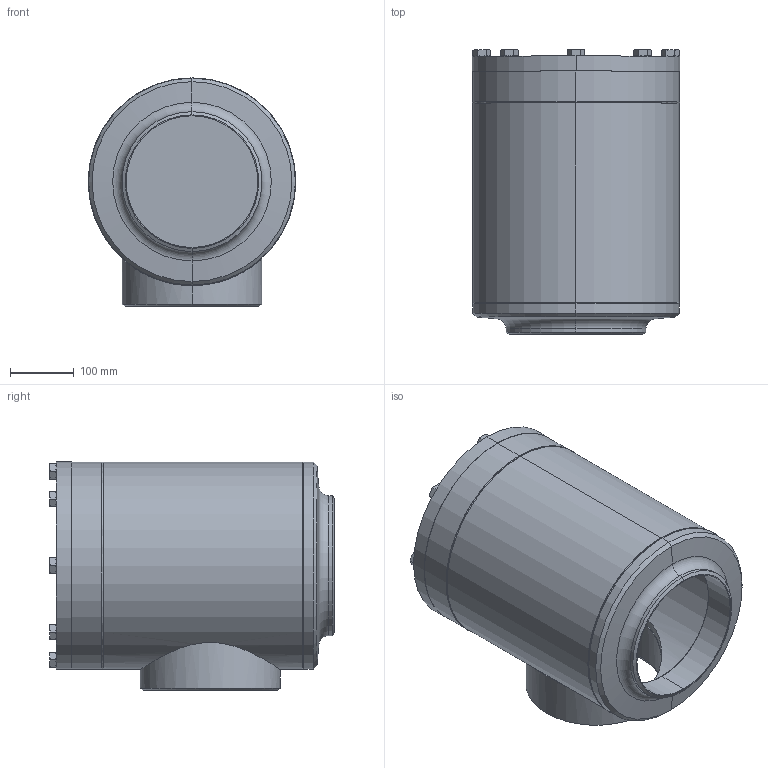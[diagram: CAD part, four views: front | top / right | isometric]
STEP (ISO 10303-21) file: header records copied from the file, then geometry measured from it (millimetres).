
FILE_DESCRIPTION (( 'STEP AP214' ), '1' );
FILE_NAME ('SS52400C23A5A0AA00_DN200_R1_PS25.STEP', '2010-06-16T12:41:36', ( 'Eckhard Grams' ), ( 'AWP Kälte Klima Armaturen GmbH' ), 'SwSTEP 2.0', 'SolidWorks 2002296', '' );
FILE_SCHEMA (( 'AUTOMOTIVE_DESIGN' ));
Length unit declared in the file: millimetre
Products named in the file (11): SS52400C23A5A0AA00_DN200_R1_PS25; Geh,kpl 16300B23-5030AA1_DN200_R1_Standard; Gehäuse16300-DN200_Standard; Kopfstück16300-DN200_Standard; Boden16300a-23_R1_Standard; Rohrstutzen-A16300a-23_R1_Standard; bead Geh,kpl 16300a-23-2_Standard; bead Geh,kpl 16300a-23-1_Standard; SS52300B23_Deck+Schr-DN200_Standard; Deckel52300B23-DN200_Standard; Sechskantschraube-DIN933_M16x 45
Assembly tree (17 placements, depth 3):
  SS52400C23A5A0AA00_DN200_R1_PS25
    Geh,kpl 16300B23-5030AA1_DN200_R1_Standard
      Boden16300a-23_R1_Standard
      bead Geh,kpl 16300a-23-1_Standard
      Rohrstutzen-A16300a-23_R1_Standard
      Kopfstück16300-DN200_Standard
      Gehäuse16300-DN200_Standard
      bead Geh,kpl 16300a-23-2_Standard
    SS52300B23_Deck+Schr-DN200_Standard
      Sechskantschraube-DIN933_M16x 45  x8
      Deckel52300B23-DN200_Standard
Bounding box: 325 x 445.5 x 357.5 mm (x, y, z)
Volume: 9192872.6 mm3; surface area: 1389467 mm2
Topology: 15 solids, 15 shells, 285 faces, 608 edges, 362 vertices
Faces by surface type: cone 126, plane 88, cylinder 61, bspline 8, torus 2
Entity records: 5535 total; most frequent: CARTESIAN_POINT 2396, DIRECTION 546, ORIENTED_EDGE 488, EDGE_CURVE 244, AXIS2_PLACEMENT_3D 238, VERTEX_POINT 152, EDGE_LOOP 142, CIRCLE 114
